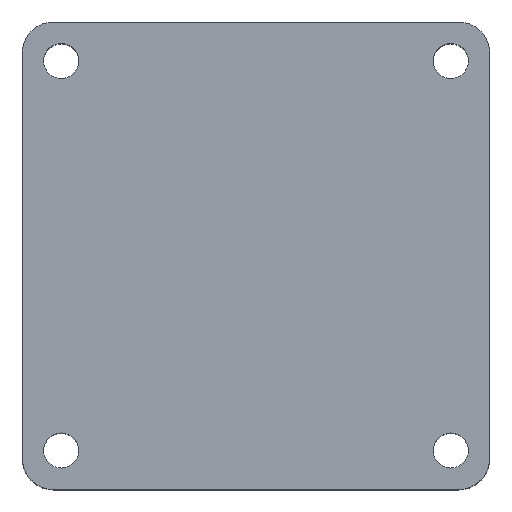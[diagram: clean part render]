
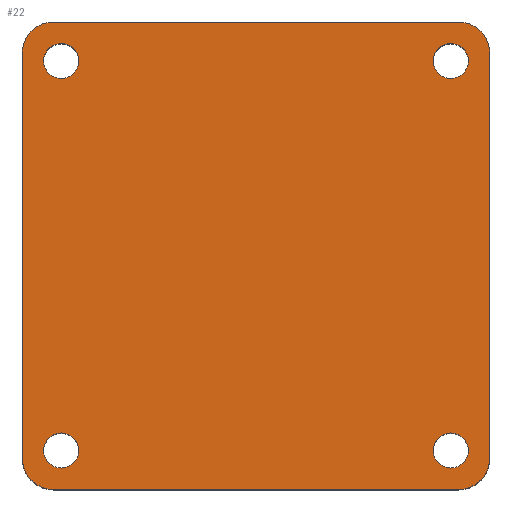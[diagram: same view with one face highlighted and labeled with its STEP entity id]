
A CAD part, top view. The second image highlights one B-rep face of the part: STEP entity #22.
In plain terms, the highlighted planar face has unit normal (0, 0, 1).
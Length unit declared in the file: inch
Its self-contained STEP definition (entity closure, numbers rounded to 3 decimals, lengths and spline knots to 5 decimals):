
#3 = DIRECTION ( 'NONE',  ( 1., 0., 0. ) ) ;
#7 = CIRCLE ( 'NONE', #158, 0.08858 ) ;
#10 = CARTESIAN_POINT ( 'NONE',  ( -24.60812, 33.2659, 0. ) ) ;
#17 = CARTESIAN_POINT ( 'NONE',  ( -24.41127, 0., 0. ) ) ;
#19 = DIRECTION ( 'NONE',  ( 1., 0., 0. ) ) ;
#20 = CARTESIAN_POINT ( 'NONE',  ( -26.66521, 33.2659, 0. ) ) ;
#22 = ADVANCED_FACE ( 'NONE', ( #376, #64, #121, #117, #74 ), #583, .T. ) ;
#29 = AXIS2_PLACEMENT_3D ( 'NONE', #250, #97, #272 ) ;
#32 = CARTESIAN_POINT ( 'NONE',  ( 0., 33.06905, 0. ) ) ;
#33 = VERTEX_POINT ( 'NONE', #20 ) ;
#35 = CARTESIAN_POINT ( 'NONE',  ( -24.56875, 35.43125, 0. ) ) ;
#42 = AXIS2_PLACEMENT_3D ( 'NONE', #442, #653, #80 ) ;
#51 = EDGE_CURVE ( 'NONE', #559, #197, #275, .T. ) ;
#53 = ORIENTED_EDGE ( 'NONE', *, *, #510, .T. ) ;
#60 = DIRECTION ( 'NONE',  ( 0., 0., 1. ) ) ;
#63 = CARTESIAN_POINT ( 'NONE',  ( -24.56875, 33.22653, 0. ) ) ;
#64 = FACE_BOUND ( 'NONE', #609, .T. ) ;
#65 = CARTESIAN_POINT ( 'NONE',  ( -26.77347, 35.27377, 0. ) ) ;
#68 = DIRECTION ( 'NONE',  ( 0., 0., 1. ) ) ;
#71 = AXIS2_PLACEMENT_3D ( 'NONE', #10, #321, #485 ) ;
#74 = FACE_OUTER_BOUND ( 'NONE', #468, .T. ) ;
#80 = DIRECTION ( 'NONE',  ( 1., 0., 0. ) ) ;
#81 = AXIS2_PLACEMENT_3D ( 'NONE', #314, #594, #19 ) ;
#96 = VERTEX_POINT ( 'NONE', #35 ) ;
#97 = DIRECTION ( 'NONE',  ( 0., 0., 1. ) ) ;
#101 = EDGE_CURVE ( 'NONE', #102, #635, #499, .T. ) ;
#102 = VERTEX_POINT ( 'NONE', #545 ) ;
#117 = FACE_BOUND ( 'NONE', #302, .T. ) ;
#121 = FACE_BOUND ( 'NONE', #611, .T. ) ;
#124 = CARTESIAN_POINT ( 'NONE',  ( -24.51954, 33.2659, 0. ) ) ;
#125 = AXIS2_PLACEMENT_3D ( 'NONE', #63, #68, #372 ) ;
#127 = CARTESIAN_POINT ( 'NONE',  ( -26.61599, 33.22653, 0. ) ) ;
#134 = CARTESIAN_POINT ( 'NONE',  ( -24.41127, 33.22653, 0. ) ) ;
#141 = DIRECTION ( 'NONE',  ( 1., 0., 0. ) ) ;
#153 = ORIENTED_EDGE ( 'NONE', *, *, #534, .F. ) ;
#154 = CARTESIAN_POINT ( 'NONE',  ( -24.6967, 33.2659, 0. ) ) ;
#155 = VERTEX_POINT ( 'NONE', #305 ) ;
#158 = AXIS2_PLACEMENT_3D ( 'NONE', #244, #365, #581 ) ;
#161 = DIRECTION ( 'NONE',  ( 1., 0., 0. ) ) ;
#165 = EDGE_CURVE ( 'NONE', #96, #558, #562, .T. ) ;
#166 = AXIS2_PLACEMENT_3D ( 'NONE', #207, #634, #161 ) ;
#182 = DIRECTION ( 'NONE',  ( 1., 0., 0. ) ) ;
#183 = CIRCLE ( 'NONE', #670, 0.08858 ) ;
#188 = VERTEX_POINT ( 'NONE', #303 ) ;
#194 = AXIS2_PLACEMENT_3D ( 'NONE', #586, #60, #219 ) ;
#195 = VERTEX_POINT ( 'NONE', #154 ) ;
#197 = VERTEX_POINT ( 'NONE', #466 ) ;
#198 = VERTEX_POINT ( 'NONE', #245 ) ;
#205 = CIRCLE ( 'NONE', #296, 0.15748 ) ;
#207 = CARTESIAN_POINT ( 'NONE',  ( -24.60812, 33.2659, 0. ) ) ;
#209 = LINE ( 'NONE', #259, #507 ) ;
#213 = DIRECTION ( 'NONE',  ( 0., 0., 1. ) ) ;
#219 = DIRECTION ( 'NONE',  ( 1., 0., 0. ) ) ;
#220 = CARTESIAN_POINT ( 'NONE',  ( -24.6967, 35.2344, 0. ) ) ;
#229 = CARTESIAN_POINT ( 'NONE',  ( -26.77347, 33.22653, 0. ) ) ;
#235 = VERTEX_POINT ( 'NONE', #368 ) ;
#239 = DIRECTION ( 'NONE',  ( -1., 0., 0. ) ) ;
#244 = CARTESIAN_POINT ( 'NONE',  ( -26.57662, 33.2659, 0. ) ) ;
#245 = CARTESIAN_POINT ( 'NONE',  ( -26.66521, 35.2344, 0. ) ) ;
#250 = CARTESIAN_POINT ( 'NONE',  ( -24.60812, 35.2344, 0. ) ) ;
#259 = CARTESIAN_POINT ( 'NONE',  ( -26.77347, 0., 0. ) ) ;
#261 = AXIS2_PLACEMENT_3D ( 'NONE', #333, #497, #492 ) ;
#272 = DIRECTION ( 'NONE',  ( 1., 0., 0. ) ) ;
#273 = VECTOR ( 'NONE', #141, 39.37008 ) ;
#275 = LINE ( 'NONE', #17, #344 ) ;
#283 = EDGE_CURVE ( 'NONE', #635, #559, #299, .T. ) ;
#284 = AXIS2_PLACEMENT_3D ( 'NONE', #377, #472, #630 ) ;
#288 = DIRECTION ( 'NONE',  ( 0., 0., 1. ) ) ;
#294 = EDGE_CURVE ( 'NONE', #188, #198, #590, .T. ) ;
#296 = AXIS2_PLACEMENT_3D ( 'NONE', #127, #388, #453 ) ;
#299 = CIRCLE ( 'NONE', #125, 0.15748 ) ;
#300 = ORIENTED_EDGE ( 'NONE', *, *, #51, .T. ) ;
#302 = EDGE_LOOP ( 'NONE', ( #629, #153 ) ) ;
#303 = CARTESIAN_POINT ( 'NONE',  ( -26.48804, 35.2344, 0. ) ) ;
#305 = CARTESIAN_POINT ( 'NONE',  ( -26.48804, 33.2659, 0. ) ) ;
#310 = EDGE_CURVE ( 'NONE', #195, #527, #619, .T. ) ;
#314 = CARTESIAN_POINT ( 'NONE',  ( -26.57662, 35.2344, 0. ) ) ;
#315 = VERTEX_POINT ( 'NONE', #65 ) ;
#319 = CIRCLE ( 'NONE', #29, 0.08858 ) ;
#321 = DIRECTION ( 'NONE',  ( 0., 0., 1. ) ) ;
#333 = CARTESIAN_POINT ( 'NONE',  ( -26.57662, 33.2659, 0. ) ) ;
#340 = EDGE_CURVE ( 'NONE', #315, #519, #209, .T. ) ;
#344 = VECTOR ( 'NONE', #643, 39.37008 ) ;
#363 = EDGE_CURVE ( 'NONE', #527, #195, #650, .T. ) ;
#365 = DIRECTION ( 'NONE',  ( 0., 0., 1. ) ) ;
#368 = CARTESIAN_POINT ( 'NONE',  ( -24.51954, 35.2344, 0. ) ) ;
#372 = DIRECTION ( 'NONE',  ( 1., 0., 0. ) ) ;
#376 = FACE_BOUND ( 'NONE', #462, .T. ) ;
#377 = CARTESIAN_POINT ( 'NONE',  ( -24.56875, 35.27377, 0. ) ) ;
#384 = EDGE_CURVE ( 'NONE', #197, #96, #531, .T. ) ;
#387 = ORIENTED_EDGE ( 'NONE', *, *, #674, .F. ) ;
#388 = DIRECTION ( 'NONE',  ( 0., 0., 1. ) ) ;
#393 = EDGE_CURVE ( 'NONE', #198, #188, #183, .T. ) ;
#395 = CARTESIAN_POINT ( 'NONE',  ( -24.60812, 35.2344, 0. ) ) ;
#408 = ORIENTED_EDGE ( 'NONE', *, *, #294, .F. ) ;
#412 = EDGE_CURVE ( 'NONE', #509, #235, #455, .T. ) ;
#432 = DIRECTION ( 'NONE',  ( 0., -1., 0. ) ) ;
#442 = CARTESIAN_POINT ( 'NONE',  ( -26.61599, 35.27377, 0. ) ) ;
#453 = DIRECTION ( 'NONE',  ( 1., 0., 0. ) ) ;
#455 = CIRCLE ( 'NONE', #496, 0.08858 ) ;
#457 = ORIENTED_EDGE ( 'NONE', *, *, #412, .F. ) ;
#460 = ORIENTED_EDGE ( 'NONE', *, *, #101, .T. ) ;
#461 = ORIENTED_EDGE ( 'NONE', *, *, #393, .F. ) ;
#462 = EDGE_LOOP ( 'NONE', ( #408, #461 ) ) ;
#466 = CARTESIAN_POINT ( 'NONE',  ( -24.41127, 35.27377, 0. ) ) ;
#467 = VECTOR ( 'NONE', #239, 39.37008 ) ;
#468 = EDGE_LOOP ( 'NONE', ( #300, #624, #666, #53, #471, #671, #460, #628 ) ) ;
#471 = ORIENTED_EDGE ( 'NONE', *, *, #340, .T. ) ;
#472 = DIRECTION ( 'NONE',  ( 0., 0., 1. ) ) ;
#485 = DIRECTION ( 'NONE',  ( 1., 0., 0. ) ) ;
#491 = EDGE_CURVE ( 'NONE', #519, #102, #205, .T. ) ;
#492 = DIRECTION ( 'NONE',  ( 1., 0., 0. ) ) ;
#496 = AXIS2_PLACEMENT_3D ( 'NONE', #395, #288, #182 ) ;
#497 = DIRECTION ( 'NONE',  ( 0., 0., 1. ) ) ;
#499 = LINE ( 'NONE', #32, #273 ) ;
#507 = VECTOR ( 'NONE', #432, 39.37008 ) ;
#509 = VERTEX_POINT ( 'NONE', #220 ) ;
#510 = EDGE_CURVE ( 'NONE', #558, #315, #631, .T. ) ;
#519 = VERTEX_POINT ( 'NONE', #229 ) ;
#527 = VERTEX_POINT ( 'NONE', #124 ) ;
#531 = CIRCLE ( 'NONE', #284, 0.15748 ) ;
#534 = EDGE_CURVE ( 'NONE', #33, #155, #660, .T. ) ;
#545 = CARTESIAN_POINT ( 'NONE',  ( -26.61599, 33.06905, 0. ) ) ;
#553 = ORIENTED_EDGE ( 'NONE', *, *, #310, .F. ) ;
#558 = VERTEX_POINT ( 'NONE', #656 ) ;
#559 = VERTEX_POINT ( 'NONE', #134 ) ;
#562 = LINE ( 'NONE', #569, #467 ) ;
#569 = CARTESIAN_POINT ( 'NONE',  ( 0., 35.43125, 0. ) ) ;
#571 = CARTESIAN_POINT ( 'NONE',  ( -24.56875, 33.06905, 0. ) ) ;
#581 = DIRECTION ( 'NONE',  ( 1., 0., 0. ) ) ;
#583 = PLANE ( 'NONE',  #194 ) ;
#585 = CARTESIAN_POINT ( 'NONE',  ( -26.57662, 35.2344, 0. ) ) ;
#586 = CARTESIAN_POINT ( 'NONE',  ( 0., 0., 0. ) ) ;
#590 = CIRCLE ( 'NONE', #81, 0.08858 ) ;
#594 = DIRECTION ( 'NONE',  ( 0., 0., 1. ) ) ;
#608 = EDGE_CURVE ( 'NONE', #155, #33, #7, .T. ) ;
#609 = EDGE_LOOP ( 'NONE', ( #387, #457 ) ) ;
#611 = EDGE_LOOP ( 'NONE', ( #617, #553 ) ) ;
#617 = ORIENTED_EDGE ( 'NONE', *, *, #363, .F. ) ;
#619 = CIRCLE ( 'NONE', #71, 0.08858 ) ;
#624 = ORIENTED_EDGE ( 'NONE', *, *, #384, .T. ) ;
#628 = ORIENTED_EDGE ( 'NONE', *, *, #283, .T. ) ;
#629 = ORIENTED_EDGE ( 'NONE', *, *, #608, .F. ) ;
#630 = DIRECTION ( 'NONE',  ( 1., 0., 0. ) ) ;
#631 = CIRCLE ( 'NONE', #42, 0.15748 ) ;
#634 = DIRECTION ( 'NONE',  ( 0., 0., 1. ) ) ;
#635 = VERTEX_POINT ( 'NONE', #571 ) ;
#643 = DIRECTION ( 'NONE',  ( 0., 1., 0. ) ) ;
#650 = CIRCLE ( 'NONE', #166, 0.08858 ) ;
#653 = DIRECTION ( 'NONE',  ( 0., 0., 1. ) ) ;
#656 = CARTESIAN_POINT ( 'NONE',  ( -26.61599, 35.43125, 0. ) ) ;
#660 = CIRCLE ( 'NONE', #261, 0.08858 ) ;
#666 = ORIENTED_EDGE ( 'NONE', *, *, #165, .T. ) ;
#670 = AXIS2_PLACEMENT_3D ( 'NONE', #585, #213, #3 ) ;
#671 = ORIENTED_EDGE ( 'NONE', *, *, #491, .T. ) ;
#674 = EDGE_CURVE ( 'NONE', #235, #509, #319, .T. ) ;
